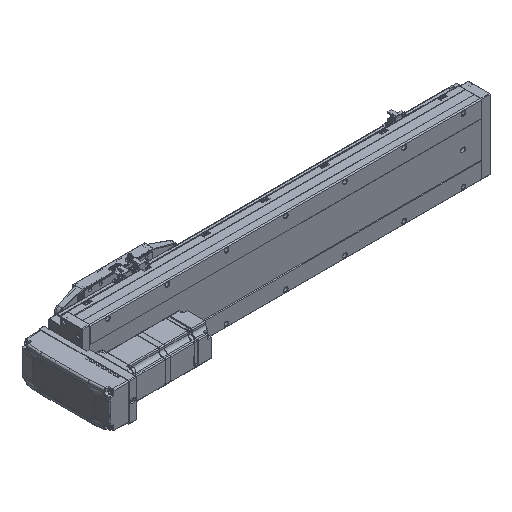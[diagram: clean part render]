
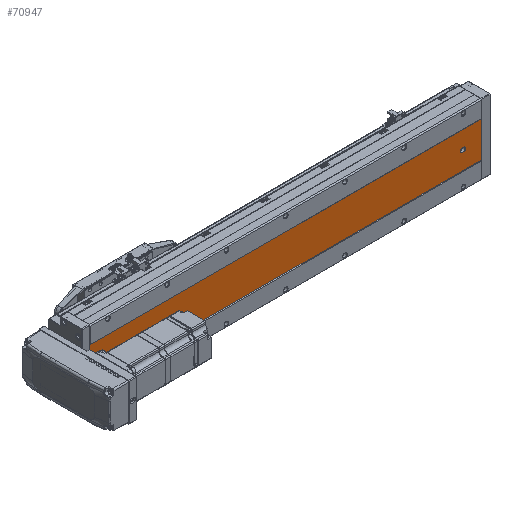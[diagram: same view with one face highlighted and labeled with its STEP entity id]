
A CAD part, isometric view. The second image highlights one B-rep face of the part: STEP entity #70947.
In plain terms, the highlighted planar face has unit normal (0, -1, 0).
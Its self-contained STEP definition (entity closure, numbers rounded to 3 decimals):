
#101 = CARTESIAN_POINT ( 'NONE',  ( -69.892, -52.848, 661. ) ) ;
#883 = FACE_OUTER_BOUND ( 'NONE', #31877, .T. ) ;
#2059 = DIRECTION ( 'NONE',  ( 0., 0., 1. ) ) ;
#3206 = AXIS2_PLACEMENT_3D ( 'NONE', #54241, #53750, #19352 ) ;
#3273 = DIRECTION ( 'NONE',  ( 0., 1., 0. ) ) ;
#3517 = VERTEX_POINT ( 'NONE', #74626 ) ;
#3800 = LINE ( 'NONE', #101, #7505 ) ;
#7401 = ORIENTED_EDGE ( 'NONE', *, *, #17088, .T. ) ;
#7505 = VECTOR ( 'NONE', #16797, 1000. ) ;
#8003 = VERTEX_POINT ( 'NONE', #66928 ) ;
#8147 = EDGE_CURVE ( 'NONE', #19624, #18663, #33248, .T. ) ;
#8195 = CARTESIAN_POINT ( 'NONE',  ( -69.892, -52.848, 661. ) ) ;
#8948 = ORIENTED_EDGE ( 'NONE', *, *, #42463, .T. ) ;
#9366 = DIRECTION ( 'NONE',  ( 0., 0., 1. ) ) ;
#9444 = ORIENTED_EDGE ( 'NONE', *, *, #59415, .T. ) ;
#10101 = EDGE_CURVE ( 'NONE', #28693, #20840, #51926, .T. ) ;
#10687 = DIRECTION ( 'NONE',  ( 1., 0., 0. ) ) ;
#11011 = EDGE_CURVE ( 'NONE', #18663, #28823, #19850, .T. ) ;
#12186 = VERTEX_POINT ( 'NONE', #19199 ) ;
#12994 = LINE ( 'NONE', #16335, #52213 ) ;
#13619 = CARTESIAN_POINT ( 'NONE',  ( -36.392, -52.848, 30. ) ) ;
#15060 = DIRECTION ( 'NONE',  ( 0., 0., 1. ) ) ;
#15076 = VERTEX_POINT ( 'NONE', #26835 ) ;
#15155 = ORIENTED_EDGE ( 'NONE', *, *, #19012, .T. ) ;
#16335 = CARTESIAN_POINT ( 'NONE',  ( -69.892, -52.848, 0. ) ) ;
#16478 = FACE_BOUND ( 'NONE', #64526, .T. ) ;
#16745 = LINE ( 'NONE', #18323, #34047 ) ;
#16797 = DIRECTION ( 'NONE',  ( 0., 0., -1. ) ) ;
#17088 = EDGE_CURVE ( 'NONE', #55073, #74156, #54456, .T. ) ;
#17444 = ORIENTED_EDGE ( 'NONE', *, *, #52585, .T. ) ;
#17639 = DIRECTION ( 'NONE',  ( 0., 1., 0. ) ) ;
#18323 = CARTESIAN_POINT ( 'NONE',  ( -9.892, -52.848, 661. ) ) ;
#18397 = VECTOR ( 'NONE', #25614, 1000. ) ;
#18427 = AXIS2_PLACEMENT_3D ( 'NONE', #45023, #44522, #9366 ) ;
#18663 = VERTEX_POINT ( 'NONE', #13619 ) ;
#19002 = CARTESIAN_POINT ( 'NONE',  ( -39.892, -52.848, 531. ) ) ;
#19012 = EDGE_CURVE ( 'NONE', #55071, #15076, #3800, .T. ) ;
#19199 = CARTESIAN_POINT ( 'NONE',  ( -9.892, -52.848, 661. ) ) ;
#19352 = DIRECTION ( 'NONE',  ( 0., 0., 1. ) ) ;
#19624 = VERTEX_POINT ( 'NONE', #59777 ) ;
#19850 = CIRCLE ( 'NONE', #3206, 3.5 ) ;
#19947 = CARTESIAN_POINT ( 'NONE',  ( -43.392, -52.848, 661. ) ) ;
#20722 = DIRECTION ( 'NONE',  ( 0., 0., 1. ) ) ;
#20840 = VERTEX_POINT ( 'NONE', #57538 ) ;
#21120 = EDGE_CURVE ( 'NONE', #43007, #8003, #34538, .T. ) ;
#21794 = VECTOR ( 'NONE', #15060, 1000. ) ;
#22865 = FACE_BOUND ( 'NONE', #54151, .T. ) ;
#24007 = DIRECTION ( 'NONE',  ( 0., 0., 1. ) ) ;
#25614 = DIRECTION ( 'NONE',  ( 1., 0., 0. ) ) ;
#25658 = CIRCLE ( 'NONE', #64097, 3.5 ) ;
#26769 = CARTESIAN_POINT ( 'NONE',  ( -36.392, -52.848, 661. ) ) ;
#26835 = CARTESIAN_POINT ( 'NONE',  ( -69.892, -52.848, 0. ) ) ;
#28371 = AXIS2_PLACEMENT_3D ( 'NONE', #19002, #60788, #65672 ) ;
#28693 = VERTEX_POINT ( 'NONE', #51734 ) ;
#28823 = VERTEX_POINT ( 'NONE', #30022 ) ;
#28831 = DIRECTION ( 'NONE',  ( 0., 0., 1. ) ) ;
#29351 = EDGE_CURVE ( 'NONE', #8003, #43007, #58186, .T. ) ;
#30022 = CARTESIAN_POINT ( 'NONE',  ( -39.892, -52.848, 26.5 ) ) ;
#30218 = DIRECTION ( 'NONE',  ( 0., 1., 0. ) ) ;
#31436 = ORIENTED_EDGE ( 'NONE', *, *, #57304, .F. ) ;
#31752 = CIRCLE ( 'NONE', #34925, 3.5 ) ;
#31877 = EDGE_LOOP ( 'NONE', ( #61032, #47864, #31436, #15155 ) ) ;
#33248 = LINE ( 'NONE', #26769, #56144 ) ;
#34047 = VECTOR ( 'NONE', #53470, 1000. ) ;
#34538 = CIRCLE ( 'NONE', #28371, 3.5 ) ;
#34705 = ORIENTED_EDGE ( 'NONE', *, *, #10101, .T. ) ;
#34925 = AXIS2_PLACEMENT_3D ( 'NONE', #35181, #53315, #24007 ) ;
#35181 = CARTESIAN_POINT ( 'NONE',  ( -39.892, -52.848, 30. ) ) ;
#35246 = AXIS2_PLACEMENT_3D ( 'NONE', #59316, #30218, #2059 ) ;
#38993 = DIRECTION ( 'NONE',  ( 0., 1., 0. ) ) ;
#40258 = CARTESIAN_POINT ( 'NONE',  ( -39.892, -52.848, 32. ) ) ;
#42463 = EDGE_CURVE ( 'NONE', #74156, #55073, #73118, .T. ) ;
#42873 = LINE ( 'NONE', #8195, #18397 ) ;
#43007 = VERTEX_POINT ( 'NONE', #58737 ) ;
#44522 = DIRECTION ( 'NONE',  ( 0., 1., 0. ) ) ;
#45023 = CARTESIAN_POINT ( 'NONE',  ( -69.892, -52.848, 661. ) ) ;
#45117 = EDGE_LOOP ( 'NONE', ( #9444, #49595, #73088, #17444, #34705 ) ) ;
#46484 = FACE_BOUND ( 'NONE', #45117, .T. ) ;
#47864 = ORIENTED_EDGE ( 'NONE', *, *, #49545, .F. ) ;
#49534 = CARTESIAN_POINT ( 'NONE',  ( -39.892, -52.848, 631. ) ) ;
#49545 = EDGE_CURVE ( 'NONE', #12186, #3517, #16745, .T. ) ;
#49595 = ORIENTED_EDGE ( 'NONE', *, *, #8147, .T. ) ;
#51734 = CARTESIAN_POINT ( 'NONE',  ( -43.392, -52.848, 30. ) ) ;
#51926 = LINE ( 'NONE', #19947, #21794 ) ;
#52213 = VECTOR ( 'NONE', #10687, 1000. ) ;
#52585 = EDGE_CURVE ( 'NONE', #28823, #28693, #31752, .T. ) ;
#52891 = CARTESIAN_POINT ( 'NONE',  ( -39.892, -52.848, 634.5 ) ) ;
#53267 = AXIS2_PLACEMENT_3D ( 'NONE', #74069, #38993, #20722 ) ;
#53315 = DIRECTION ( 'NONE',  ( 0., 1., 0. ) ) ;
#53470 = DIRECTION ( 'NONE',  ( 0., 0., -1. ) ) ;
#53750 = DIRECTION ( 'NONE',  ( 0., 1., 0. ) ) ;
#53941 = AXIS2_PLACEMENT_3D ( 'NONE', #49534, #3273, #61051 ) ;
#54151 = EDGE_LOOP ( 'NONE', ( #8948, #7401 ) ) ;
#54241 = CARTESIAN_POINT ( 'NONE',  ( -39.892, -52.848, 30. ) ) ;
#54456 = CIRCLE ( 'NONE', #53941, 3.5 ) ;
#54672 = ORIENTED_EDGE ( 'NONE', *, *, #21120, .T. ) ;
#55071 = VERTEX_POINT ( 'NONE', #63411 ) ;
#55073 = VERTEX_POINT ( 'NONE', #52891 ) ;
#56144 = VECTOR ( 'NONE', #62968, 1000. ) ;
#56677 = ORIENTED_EDGE ( 'NONE', *, *, #29351, .T. ) ;
#57304 = EDGE_CURVE ( 'NONE', #55071, #12186, #42873, .T. ) ;
#57538 = CARTESIAN_POINT ( 'NONE',  ( -43.392, -52.848, 32. ) ) ;
#58186 = CIRCLE ( 'NONE', #53267, 3.5 ) ;
#58737 = CARTESIAN_POINT ( 'NONE',  ( -39.892, -52.848, 527.5 ) ) ;
#59316 = CARTESIAN_POINT ( 'NONE',  ( -39.892, -52.848, 631. ) ) ;
#59415 = EDGE_CURVE ( 'NONE', #20840, #19624, #25658, .T. ) ;
#59777 = CARTESIAN_POINT ( 'NONE',  ( -36.392, -52.848, 32. ) ) ;
#60788 = DIRECTION ( 'NONE',  ( 0., 1., 0. ) ) ;
#61032 = ORIENTED_EDGE ( 'NONE', *, *, #63568, .T. ) ;
#61051 = DIRECTION ( 'NONE',  ( 0., 0., 1. ) ) ;
#62466 = PLANE ( 'NONE',  #18427 ) ;
#62968 = DIRECTION ( 'NONE',  ( 0., 0., -1. ) ) ;
#63411 = CARTESIAN_POINT ( 'NONE',  ( -69.892, -52.848, 661. ) ) ;
#63568 = EDGE_CURVE ( 'NONE', #15076, #3517, #12994, .T. ) ;
#64097 = AXIS2_PLACEMENT_3D ( 'NONE', #40258, #17639, #28831 ) ;
#64526 = EDGE_LOOP ( 'NONE', ( #54672, #56677 ) ) ;
#65672 = DIRECTION ( 'NONE',  ( 0., 0., 1. ) ) ;
#66928 = CARTESIAN_POINT ( 'NONE',  ( -39.892, -52.848, 534.5 ) ) ;
#70947 = ADVANCED_FACE ( 'NONE', ( #46484, #16478, #22865, #883 ), #62466, .F. ) ;
#73088 = ORIENTED_EDGE ( 'NONE', *, *, #11011, .T. ) ;
#73118 = CIRCLE ( 'NONE', #35246, 3.5 ) ;
#74069 = CARTESIAN_POINT ( 'NONE',  ( -39.892, -52.848, 531. ) ) ;
#74121 = CARTESIAN_POINT ( 'NONE',  ( -39.892, -52.848, 627.5 ) ) ;
#74156 = VERTEX_POINT ( 'NONE', #74121 ) ;
#74626 = CARTESIAN_POINT ( 'NONE',  ( -9.892, -52.848, 0. ) ) ;
